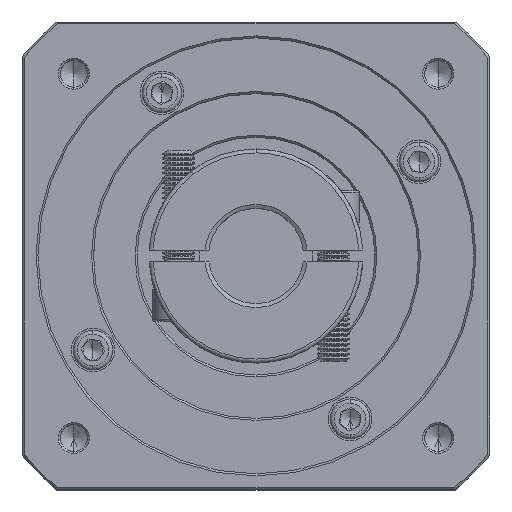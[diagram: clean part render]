
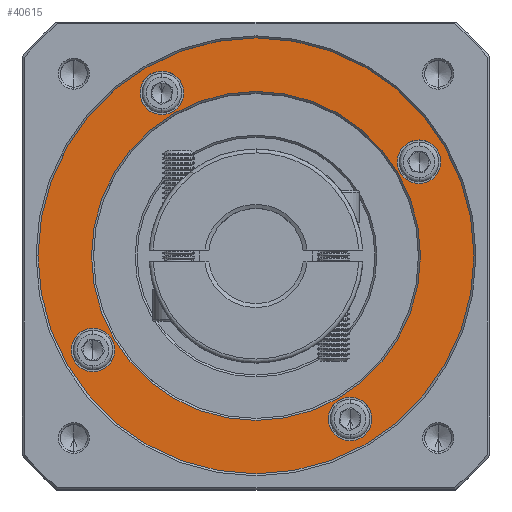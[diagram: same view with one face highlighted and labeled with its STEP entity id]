
A CAD part, top view. The second image highlights one B-rep face of the part: STEP entity #40615.
In plain terms, the highlighted planar face has unit normal (0, 0, 1).
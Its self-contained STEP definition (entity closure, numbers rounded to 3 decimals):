
#389 = VERTEX_POINT ( 'NONE', #95435 ) ;
#415 = VERTEX_POINT ( 'NONE', #64822 ) ;
#1535 = EDGE_LOOP ( 'NONE', ( #130694, #60137 ) ) ;
#4420 = VERTEX_POINT ( 'NONE', #20428 ) ;
#5953 = FACE_BOUND ( 'NONE', #82089, .T. ) ;
#6074 = EDGE_CURVE ( 'NONE', #94342, #137576, #138104, .T. ) ;
#6973 = ORIENTED_EDGE ( 'NONE', *, *, #61182, .T. ) ;
#7491 = CARTESIAN_POINT ( 'NONE',  ( 25.079, 99.071, -18.676 ) ) ;
#9244 = CARTESIAN_POINT ( 'NONE',  ( 89.965, 81.685, -18.676 ) ) ;
#9766 = ORIENTED_EDGE ( 'NONE', *, *, #107762, .T. ) ;
#10495 = CARTESIAN_POINT ( 'NONE',  ( 48.829, 52.435, -18.676 ) ) ;
#11716 = DIRECTION ( 'NONE',  ( 0., 0., -1. ) ) ;
#12612 = CIRCLE ( 'NONE', #33139, 55. ) ;
#12704 = AXIS2_PLACEMENT_3D ( 'NONE', #127805, #19723, #105291 ) ;
#13419 = EDGE_CURVE ( 'NONE', #415, #79250, #93612, .T. ) ;
#15243 = EDGE_CURVE ( 'NONE', #113772, #54567, #54237, .T. ) ;
#19723 = DIRECTION ( 'NONE',  ( 0., 0., -1. ) ) ;
#20428 = CARTESIAN_POINT ( 'NONE',  ( 25.079, 88.071, -18.676 ) ) ;
#21021 = CARTESIAN_POINT ( 'NONE',  ( 89.965, 76.185, -18.676 ) ) ;
#21811 = DIRECTION ( 'NONE',  ( 0., 1., 0. ) ) ;
#25655 = EDGE_CURVE ( 'NONE', #57315, #389, #94746, .T. ) ;
#26652 = VERTEX_POINT ( 'NONE', #9244 ) ;
#27237 = EDGE_CURVE ( 'NONE', #54567, #113772, #134256, .T. ) ;
#27483 = EDGE_CURVE ( 'NONE', #4420, #42209, #66817, .T. ) ;
#29301 = CARTESIAN_POINT ( 'NONE',  ( 7.329, 52.435, -18.676 ) ) ;
#29781 = CARTESIAN_POINT ( 'NONE',  ( 25.079, 93.571, -18.676 ) ) ;
#29799 = CIRCLE ( 'NONE', #66593, 5.5 ) ;
#29867 = DIRECTION ( 'NONE',  ( 0., 0., -1. ) ) ;
#30075 = CARTESIAN_POINT ( 'NONE',  ( 72.579, 5.799, -18.676 ) ) ;
#30332 = PLANE ( 'NONE',  #108838 ) ;
#31213 = AXIS2_PLACEMENT_3D ( 'NONE', #10495, #87619, #109227 ) ;
#31269 = CARTESIAN_POINT ( 'NONE',  ( 48.829, 52.435, -18.676 ) ) ;
#33139 = AXIS2_PLACEMENT_3D ( 'NONE', #104684, #114493, #94777 ) ;
#33930 = CARTESIAN_POINT ( 'NONE',  ( 7.692, 23.185, -18.676 ) ) ;
#36853 = DIRECTION ( 'NONE',  ( 0., 0., -1. ) ) ;
#40615 = ADVANCED_FACE ( 'NONE', ( #59794, #85027, #120369, #5953, #56459, #43135 ), #30332, .T. ) ;
#41218 = CARTESIAN_POINT ( 'NONE',  ( 72.579, 11.299, -18.676 ) ) ;
#42096 = DIRECTION ( 'NONE',  ( 0., 0., 1. ) ) ;
#42209 = VERTEX_POINT ( 'NONE', #7491 ) ;
#42935 = ORIENTED_EDGE ( 'NONE', *, *, #69390, .T. ) ;
#43135 = FACE_BOUND ( 'NONE', #61197, .T. ) ;
#43470 = AXIS2_PLACEMENT_3D ( 'NONE', #21021, #64229, #83566 ) ;
#47629 = DIRECTION ( 'NONE',  ( 1., 0., 0. ) ) ;
#48101 = DIRECTION ( 'NONE',  ( 0., 0., -1. ) ) ;
#49061 = CARTESIAN_POINT ( 'NONE',  ( 48.829, -2.565, -18.676 ) ) ;
#50439 = VERTEX_POINT ( 'NONE', #99061 ) ;
#50579 = DIRECTION ( 'NONE',  ( 0., 1., 0. ) ) ;
#54237 = CIRCLE ( 'NONE', #124030, 41.5 ) ;
#54567 = VERTEX_POINT ( 'NONE', #120872 ) ;
#56459 = FACE_BOUND ( 'NONE', #111883, .T. ) ;
#57315 = VERTEX_POINT ( 'NONE', #33930 ) ;
#59794 = FACE_OUTER_BOUND ( 'NONE', #106109, .T. ) ;
#60137 = ORIENTED_EDGE ( 'NONE', *, *, #15243, .T. ) ;
#60630 = ORIENTED_EDGE ( 'NONE', *, *, #61860, .T. ) ;
#61182 = EDGE_CURVE ( 'NONE', #50439, #26652, #73933, .T. ) ;
#61197 = EDGE_LOOP ( 'NONE', ( #75732, #64000 ) ) ;
#61860 = EDGE_CURVE ( 'NONE', #26652, #50439, #100646, .T. ) ;
#64000 = ORIENTED_EDGE ( 'NONE', *, *, #123422, .T. ) ;
#64229 = DIRECTION ( 'NONE',  ( 0., 0., -1. ) ) ;
#64822 = CARTESIAN_POINT ( 'NONE',  ( 72.579, 16.799, -18.676 ) ) ;
#66593 = AXIS2_PLACEMENT_3D ( 'NONE', #109308, #75882, #87232 ) ;
#66817 = CIRCLE ( 'NONE', #105909, 5.5 ) ;
#67617 = CARTESIAN_POINT ( 'NONE',  ( 72.579, 11.299, -18.676 ) ) ;
#69390 = EDGE_CURVE ( 'NONE', #389, #57315, #88602, .T. ) ;
#70269 = DIRECTION ( 'NONE',  ( 0., 0., 1. ) ) ;
#72075 = EDGE_LOOP ( 'NONE', ( #137537, #113637 ) ) ;
#72542 = CARTESIAN_POINT ( 'NONE',  ( 7.692, 28.685, -18.676 ) ) ;
#73933 = CIRCLE ( 'NONE', #12704, 5.5 ) ;
#75615 = CARTESIAN_POINT ( 'NONE',  ( 48.829, 107.435, -18.676 ) ) ;
#75732 = ORIENTED_EDGE ( 'NONE', *, *, #13419, .T. ) ;
#75882 = DIRECTION ( 'NONE',  ( 0., 0., -1. ) ) ;
#79015 = ORIENTED_EDGE ( 'NONE', *, *, #25655, .T. ) ;
#79250 = VERTEX_POINT ( 'NONE', #30075 ) ;
#82089 = EDGE_LOOP ( 'NONE', ( #60630, #6973 ) ) ;
#83566 = DIRECTION ( 'NONE',  ( 0., 1., 0. ) ) ;
#83931 = DIRECTION ( 'NONE',  ( 0., 0., -1. ) ) ;
#85027 = FACE_BOUND ( 'NONE', #1535, .T. ) ;
#85325 = DIRECTION ( 'NONE',  ( 0., 1., 0. ) ) ;
#85801 = CARTESIAN_POINT ( 'NONE',  ( 7.692, 28.685, -18.676 ) ) ;
#86971 = DIRECTION ( 'NONE',  ( 0., 1., 0. ) ) ;
#87232 = DIRECTION ( 'NONE',  ( 0., 1., 0. ) ) ;
#87619 = DIRECTION ( 'NONE',  ( 0., 0., -1. ) ) ;
#88068 = CIRCLE ( 'NONE', #137376, 5.5 ) ;
#88602 = CIRCLE ( 'NONE', #127374, 5.5 ) ;
#93612 = CIRCLE ( 'NONE', #138974, 5.5 ) ;
#94209 = DIRECTION ( 'NONE',  ( 0., 1., 0. ) ) ;
#94342 = VERTEX_POINT ( 'NONE', #75615 ) ;
#94746 = CIRCLE ( 'NONE', #122807, 5.5 ) ;
#94777 = DIRECTION ( 'NONE',  ( 0., 1., 0. ) ) ;
#95435 = CARTESIAN_POINT ( 'NONE',  ( 7.692, 34.185, -18.676 ) ) ;
#99061 = CARTESIAN_POINT ( 'NONE',  ( 89.965, 70.685, -18.676 ) ) ;
#100646 = CIRCLE ( 'NONE', #43470, 5.5 ) ;
#102609 = CARTESIAN_POINT ( 'NONE',  ( 48.829, 52.435, -18.676 ) ) ;
#102892 = EDGE_CURVE ( 'NONE', #42209, #4420, #29799, .T. ) ;
#104684 = CARTESIAN_POINT ( 'NONE',  ( 48.829, 52.435, -18.676 ) ) ;
#105291 = DIRECTION ( 'NONE',  ( 0., 1., 0. ) ) ;
#105578 = DIRECTION ( 'NONE',  ( 0., 0., -1. ) ) ;
#105909 = AXIS2_PLACEMENT_3D ( 'NONE', #29781, #48101, #134485 ) ;
#106109 = EDGE_LOOP ( 'NONE', ( #128958, #9766 ) ) ;
#107762 = EDGE_CURVE ( 'NONE', #137576, #94342, #12612, .T. ) ;
#108838 = AXIS2_PLACEMENT_3D ( 'NONE', #31269, #42096, #21811 ) ;
#109227 = DIRECTION ( 'NONE',  ( 1., 0., 0. ) ) ;
#109308 = CARTESIAN_POINT ( 'NONE',  ( 25.079, 93.571, -18.676 ) ) ;
#111883 = EDGE_LOOP ( 'NONE', ( #42935, #79015 ) ) ;
#113637 = ORIENTED_EDGE ( 'NONE', *, *, #27483, .T. ) ;
#113772 = VERTEX_POINT ( 'NONE', #29301 ) ;
#114493 = DIRECTION ( 'NONE',  ( 0., 0., 1. ) ) ;
#116139 = AXIS2_PLACEMENT_3D ( 'NONE', #123460, #70269, #50579 ) ;
#117740 = DIRECTION ( 'NONE',  ( 0., 1., 0. ) ) ;
#120369 = FACE_BOUND ( 'NONE', #72075, .T. ) ;
#120872 = CARTESIAN_POINT ( 'NONE',  ( 90.329, 52.435, -18.676 ) ) ;
#122807 = AXIS2_PLACEMENT_3D ( 'NONE', #85801, #83931, #85325 ) ;
#123422 = EDGE_CURVE ( 'NONE', #79250, #415, #88068, .T. ) ;
#123460 = CARTESIAN_POINT ( 'NONE',  ( 48.829, 52.435, -18.676 ) ) ;
#124030 = AXIS2_PLACEMENT_3D ( 'NONE', #102609, #36853, #47629 ) ;
#127374 = AXIS2_PLACEMENT_3D ( 'NONE', #72542, #29867, #94209 ) ;
#127805 = CARTESIAN_POINT ( 'NONE',  ( 89.965, 76.185, -18.676 ) ) ;
#128958 = ORIENTED_EDGE ( 'NONE', *, *, #6074, .T. ) ;
#130694 = ORIENTED_EDGE ( 'NONE', *, *, #27237, .T. ) ;
#134256 = CIRCLE ( 'NONE', #31213, 41.5 ) ;
#134485 = DIRECTION ( 'NONE',  ( 0., 1., 0. ) ) ;
#137376 = AXIS2_PLACEMENT_3D ( 'NONE', #67617, #11716, #86971 ) ;
#137537 = ORIENTED_EDGE ( 'NONE', *, *, #102892, .T. ) ;
#137576 = VERTEX_POINT ( 'NONE', #49061 ) ;
#138104 = CIRCLE ( 'NONE', #116139, 55. ) ;
#138974 = AXIS2_PLACEMENT_3D ( 'NONE', #41218, #105578, #117740 ) ;
